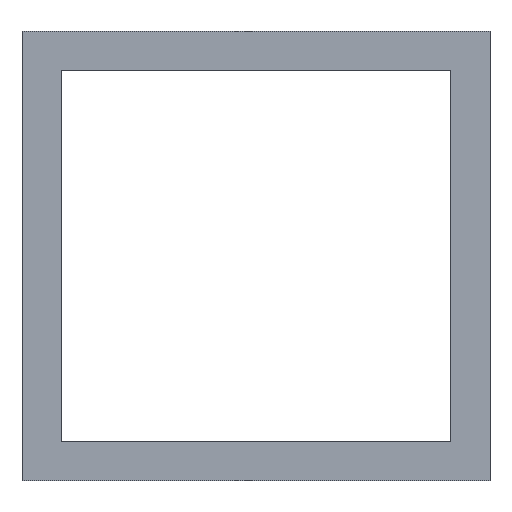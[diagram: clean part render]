
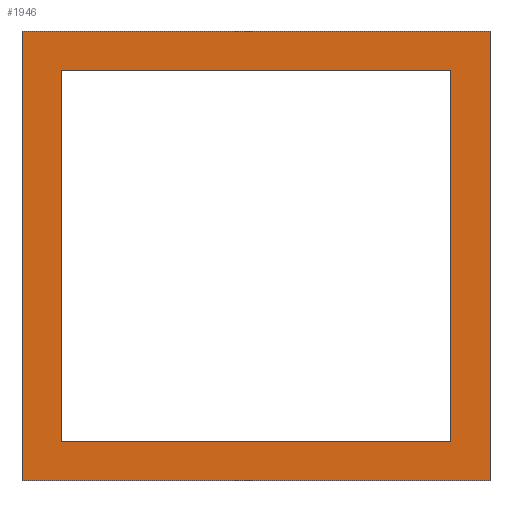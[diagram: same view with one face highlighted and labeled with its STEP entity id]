
A CAD part, top view. The second image highlights one B-rep face of the part: STEP entity #1946.
In plain terms, the highlighted planar face has unit normal (0, 0, 1).
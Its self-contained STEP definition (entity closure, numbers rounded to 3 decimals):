
#551=CARTESIAN_POINT(' ',(179.5,172.5,11.2));
#552=VERTEX_POINT(' ',#551);
#566=CARTESIAN_POINT(' ',(179.5,-172.5,11.2));
#571=DIRECTION(' ',(0.,1.,0.));
#576=VECTOR(' ',#571,1.);
#581=LINE('',#566,#576);
#586=CARTESIAN_POINT(' ',(179.5,-172.5,11.2));
#587=VERTEX_POINT(' ',#586);
#591=EDGE_CURVE(' ',#587,#552,#581,.T.);
#736=CARTESIAN_POINT(' ',(-179.5,-172.5,11.2));
#741=DIRECTION(' ',(1.,0.,0.));
#746=VECTOR(' ',#741,1.);
#751=LINE('',#736,#746);
#756=CARTESIAN_POINT(' ',(-179.5,-172.5,11.2));
#757=VERTEX_POINT(' ',#756);
#761=EDGE_CURVE(' ',#757,#587,#751,.T.);
#906=CARTESIAN_POINT(' ',(-179.5,172.5,11.2));
#911=DIRECTION(' ',(0.,-1.,0.));
#916=VECTOR(' ',#911,1.);
#921=LINE('',#906,#916);
#926=CARTESIAN_POINT(' ',(-179.5,172.5,11.2));
#927=VERTEX_POINT(' ',#926);
#931=EDGE_CURVE(' ',#927,#757,#921,.T.);
#1076=CARTESIAN_POINT(' ',(179.5,172.5,11.2));
#1081=DIRECTION(' ',(-1.,0.,0.));
#1086=VECTOR(' ',#1081,1.);
#1091=LINE('',#1076,#1086);
#1096=EDGE_CURVE(' ',#552,#927,#1091,.T.);
#1231=CARTESIAN_POINT(' ',(-149.,-142.5,11.2));
#1232=VERTEX_POINT(' ',#1231);
#1246=CARTESIAN_POINT(' ',(-149.,-142.5,11.2));
#1251=DIRECTION(' ',(1.,0.,0.));
#1256=VECTOR(' ',#1251,1.);
#1261=LINE('',#1246,#1256);
#1266=CARTESIAN_POINT(' ',(149.,-142.5,11.2));
#1267=VERTEX_POINT(' ',#1266);
#1271=EDGE_CURVE(' ',#1232,#1267,#1261,.T.);
#1416=CARTESIAN_POINT(' ',(149.,-142.5,11.2));
#1421=DIRECTION(' ',(0.,1.,0.));
#1426=VECTOR(' ',#1421,1.);
#1431=LINE('',#1416,#1426);
#1436=CARTESIAN_POINT(' ',(149.,142.5,11.2));
#1437=VERTEX_POINT(' ',#1436);
#1441=EDGE_CURVE(' ',#1267,#1437,#1431,.T.);
#1586=CARTESIAN_POINT(' ',(149.,142.5,11.2));
#1591=DIRECTION(' ',(-1.,0.,0.));
#1596=VECTOR(' ',#1591,1.);
#1601=LINE('',#1586,#1596);
#1606=CARTESIAN_POINT(' ',(-149.,142.5,11.2));
#1607=VERTEX_POINT(' ',#1606);
#1611=EDGE_CURVE(' ',#1437,#1607,#1601,.T.);
#1756=CARTESIAN_POINT(' ',(-149.,142.5,11.2));
#1761=DIRECTION(' ',(0.,-1.,0.));
#1766=VECTOR(' ',#1761,1.);
#1771=LINE('',#1756,#1766);
#1776=EDGE_CURVE(' ',#1607,#1232,#1771,.T.);
#1861=DIRECTION(' ',(-0.,-0.,1.));
#1866=CARTESIAN_POINT(' ',(179.5,-172.5,11.2));
#1871=DIRECTION(' ',(0.,1.,0.));
#1876=AXIS2_PLACEMENT_3D(' ',#1866,#1861,#1871);
#1881=PLANE('',#1876);
#1886=ORIENTED_EDGE(' ',*,*,#591,.T.);
#1891=ORIENTED_EDGE(' ',*,*,#1096,.T.);
#1896=ORIENTED_EDGE(' ',*,*,#931,.T.);
#1901=ORIENTED_EDGE(' ',*,*,#761,.T.);
#1906=EDGE_LOOP(' ',(#1886,#1891,#1896,#1901));
#1911=FACE_OUTER_BOUND(' ',#1906,.T.);
#1916=ORIENTED_EDGE(' ',*,*,#1441,.F.);
#1921=ORIENTED_EDGE(' ',*,*,#1271,.F.);
#1926=ORIENTED_EDGE(' ',*,*,#1776,.F.);
#1931=ORIENTED_EDGE(' ',*,*,#1611,.F.);
#1936=EDGE_LOOP(' ',(#1916,#1921,#1926,#1931));
#1941=FACE_BOUND(' ',#1936,.T.);
#1946=ADVANCED_FACE('',(#1911,#1941),#1881,.T.);
